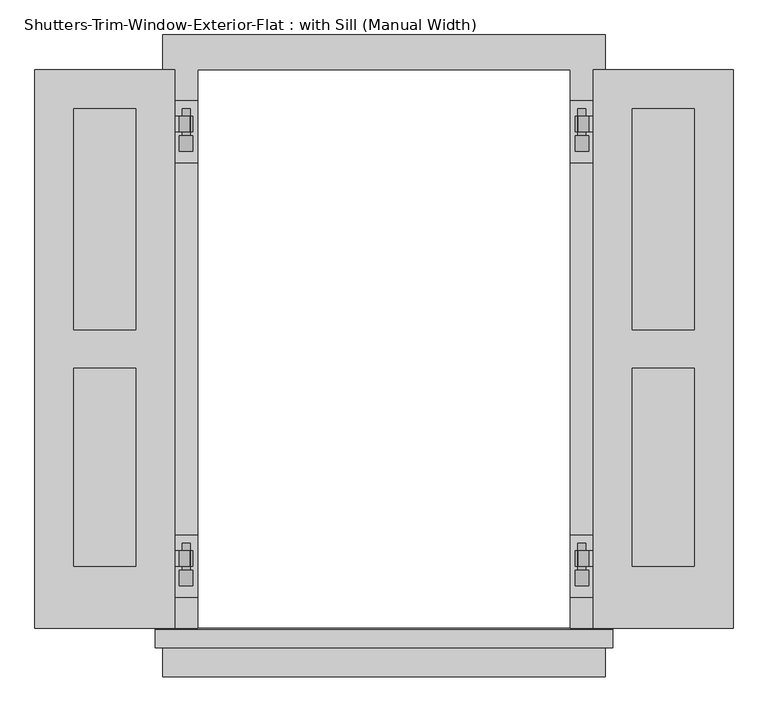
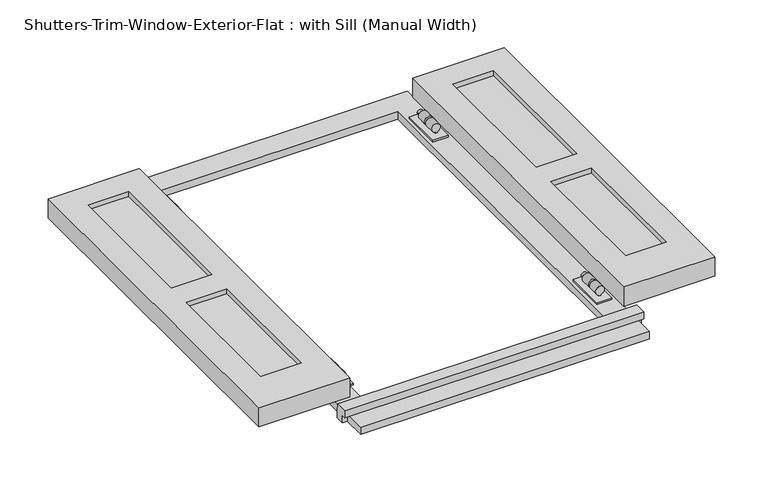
"""IFC4 building model written with IfcOpenShell, lengths in millimetres: proxy geometry, Shutters-Trim-Window-Exterior-Flat : with Sill (Manual Width)."""

from ifc_helpers import new_model, si_unit, frame, origin, origin_with_axes, place, context, project, spatial, polyline, circle_curve, outline, extrude, source, transform, mapped, element, save
from ifc_brep_helpers import plane_surface, cylinder_surface, revolved_surface, advanced_brep


def shutters_trim_window_exterior_flat_with_sill_manual_width_7cc3b3d1(model_context):
    return source(origin(), model_context, "Body", "SolidModel", [
        extrude(outline(polyline([(-571.5, 0.0), (-342.9, 0.0), (-342.9, -914.4), (-571.5, -914.4), (-571.5, 0.0)]), holes=[polyline([(-508.0, -63.5), (-508.0, -425.45), (-406.4, -425.45), (-406.4, -63.5), (-508.0, -63.5)]), polyline([(-406.4, -488.95), (-508.0, -488.95), (-508.0, -812.8), (-406.4, -812.8), (-406.4, -488.95)])]), frame((0.0, 0.0, 44.45), z_axis=(0.0, 0.0, 1.0), x_axis=(1.0, 0.0, 0.0)), (0.0, 0.0, 1.0), 50.8),
        extrude(outline(polyline([(-508.0, -63.5), (-406.4, -63.5), (-406.4, -425.45), (-508.0, -425.45), (-508.0, -63.5)])), frame((0.0, 0.0, 57.15), z_axis=(0.0, 0.0, 1.0), x_axis=(1.0, 0.0, 0.0)), (0.0, 0.0, 1.0), 25.4),
        extrude(outline(polyline([(-406.4, -488.95), (-406.4, -812.8), (-508.0, -812.8), (-508.0, -488.95), (-406.4, -488.95)])), frame((0.0, 0.0, 57.15), z_axis=(0.0, 0.0, 1.0), x_axis=(1.0, 0.0, 0.0)), (0.0, 0.0, 1.0), 25.4),
        extrude(outline(polyline([(571.5, 0.0), (571.5, -914.4), (342.9, -914.4), (342.9, 0.0), (571.5, 0.0)]), holes=[polyline([(508.0, -63.5), (406.4, -63.5), (406.4, -425.45), (508.0, -425.45), (508.0, -63.5)]), polyline([(406.4, -488.95), (406.4, -812.8), (508.0, -812.8), (508.0, -488.95), (406.4, -488.95)])]), frame((0.0, 0.0, 44.45), z_axis=(0.0, 0.0, 1.0), x_axis=(1.0, 0.0, 0.0)), (0.0, 0.0, 1.0), 50.8),
        extrude(outline(polyline([(508.0, -63.5), (508.0, -425.45), (406.4, -425.45), (406.4, -63.5), (508.0, -63.5)])), frame((0.0, 0.0, 57.15), z_axis=(0.0, 0.0, 1.0), x_axis=(1.0, 0.0, 0.0)), (0.0, 0.0, 1.0), 25.4),
        extrude(outline(polyline([(406.4, -488.95), (508.0, -488.95), (508.0, -812.8), (406.4, -812.8), (406.4, -488.95)])), frame((0.0, 0.0, 57.15), z_axis=(0.0, 0.0, 1.0), x_axis=(1.0, 0.0, 0.0)), (0.0, 0.0, 1.0), 25.4),
        extrude(outline(polyline([(-342.9, -762.0), (-304.8, -762.0), (-304.8, -863.6), (-342.9, -863.6), (-342.9, -762.0)])), frame((0.0, 0.0, 31.75), z_axis=(0.0, 0.0, 1.0), x_axis=(1.0, 0.0, 0.0)), (0.0, 0.0, 1.0), 4.7625),
        advanced_brep(
        [(-388.9375, -774.7, 44.45), (-363.474, -774.7, 44.45), (-363.474, -774.7, 39.6875), (-388.9375, -774.7, 39.6875), (-388.9375, -825.5, 39.6875), (-363.474, -825.5, 39.6875), (-363.474, -825.5, 44.45), (-388.9375, -825.5, 44.45), (-363.474, -787.4, 39.6875), (-323.85, -787.4, 39.6875), (-323.85, -812.8, 39.6875), (-363.474, -812.8, 39.6875), (-363.474, -812.8, 44.45), (-323.85, -812.8, 44.45), (-323.85, -787.4, 44.45), (-363.474, -787.4, 44.45), (-330.2, -812.8, 50.8), (-330.2, -787.4, 50.8), (-330.2, -812.8, 46.0375), (-330.2, -787.4, 46.0375), (-334.9625, -812.8, 46.0375), (-334.9625, -787.4, 46.0375), (-334.9625, -812.8, 50.8), (-334.9625, -787.4, 50.8)],
        [
            (0, 1),
            (1, 2),
            (2, 3),
            (3, 0),
            (4, 5),
            (5, 6),
            (6, 7),
            (7, 4),
            (2, 8),
            (8, 9),
            (9, 10),
            (10, 11),
            (11, 5),
            (4, 3),
            (7, 0),
            (6, 12),
            (12, 13),
            (13, 14),
            (14, 15),
            (15, 1),
            (16, 17),
            (17, 14, circle_curve(frame((-323.85, -787.4, 50.8), z_axis=(0.0, 1.0, 0.0), x_axis=(1.0, 0.0, 0.0)), 6.35)),
            (13, 16, circle_curve(frame((-323.85, -812.8, 50.8), z_axis=(0.0, -1.0, 0.0), x_axis=(1.0, 0.0, 0.0)), 6.35)),
            (18, 19),
            (19, 17),
            (16, 18),
            (20, 21),
            (21, 19),
            (18, 20),
            (22, 23),
            (23, 21),
            (20, 22),
            (9, 23, circle_curve(frame((-323.85, -787.4, 50.8), z_axis=(0.0, -1.0, 0.0), x_axis=(1.0, 0.0, 0.0)), 11.1125)),
            (22, 10, circle_curve(frame((-323.85, -812.8, 50.8), z_axis=(0.0, 1.0, 0.0), x_axis=(1.0, 0.0, 0.0)), 11.1125)),
            (12, 11),
            (8, 15),
        ],
        [
            plane_surface(frame((-323.85, -774.7, 50.8), z_axis=(0.0, 1.0, 0.0), x_axis=(0.0, 0.0, 1.0))),
            plane_surface(frame((-323.85, -825.5, 50.8), z_axis=(0.0, -1.0, 0.0), x_axis=(0.0, 0.0, 1.0))),
            plane_surface(frame((-388.9375, -774.7, 39.6875), z_axis=(0.0, 0.0, -1.0), x_axis=(0.0, -1.0, 0.0))),
            plane_surface(frame((-388.9375, -774.7, 44.45), z_axis=(-1.0, 0.0, 0.0), x_axis=(0.0, -1.0, 0.0))),
            plane_surface(frame((-323.85, -774.7, 44.45), z_axis=(0.0, 0.0, 1.0), x_axis=(0.0, -1.0, 0.0))),
            revolved_surface(polyline([(-317.5, -812.8, 50.8), (-317.5, -787.4, 50.8)]), (-323.85, -774.7, 50.8), (0.0, -1.0, 0.0)),
            plane_surface(frame((-330.2, -774.7, 46.0375), z_axis=(1.0, 0.0, 0.0), x_axis=(0.0, -1.0, 0.0))),
            plane_surface(frame((-334.9625, -774.7, 46.0375), z_axis=(0.0, 0.0, -1.0), x_axis=(0.0, -1.0, 0.0))),
            plane_surface(frame((-334.9625, -774.7, 50.8), z_axis=(-1.0, 0.0, 0.0), x_axis=(0.0, -1.0, 0.0))),
            cylinder_surface(frame((-323.85, -774.7, 50.8), z_axis=(0.0, 1.0, 0.0), x_axis=(1.0, 0.0, 0.0)), 11.1125),
            plane_surface(frame((-323.85, -812.8, 50.8), z_axis=(0.0, -1.0, 0.0), x_axis=(0.0, 0.0, 1.0))),
            plane_surface(frame((-363.474, -812.8, 44.45), z_axis=(1.0, 0.0, 0.0), x_axis=(0.0, -1.0, 0.0))),
            plane_surface(frame((-323.85, -787.4, 50.8), z_axis=(0.0, 1.0, 0.0), x_axis=(0.0, 0.0, 1.0))),
            plane_surface(frame((-363.474, -774.7, 44.45), z_axis=(1.0, 0.0, 0.0), x_axis=(0.0, -1.0, 0.0))),
        ],
        [
            (0, [[1, 2, 3, 4]]),
            (1, [[5, 6, 7, 8]]),
            (2, [[-3, 9, 10, 11, 12, 13, -5, 14]]),
            (3, [[-14, -8, 15, -4]]),
            (4, [[-7, 16, 17, 18, 19, 20, -1, -15]]),
            (5, [[21, 22, -18, 23]]),
            (6, [[24, 25, -21, 26]]),
            (7, [[27, 28, -24, 29]]),
            (8, [[30, 31, -27, 32]]),
            (9, [[-11, 33, -30, 34]]),
            (10, [[-12, -34, -32, -29, -26, -23, -17, 35]]),
            (11, [[-16, -6, -13, -35]]),
            (12, [[-19, -22, -25, -28, -31, -33, -10, 36]]),
            (13, [[-9, -2, -20, -36]]),
        ],
    ),
        advanced_brep(
        [(-326.23125, -819.15, 36.5125), (-326.23125, -819.15, 39.945632), (-321.46875, -819.15, 39.945632), (-321.46875, -819.15, 36.5125), (-317.5, -819.15, 50.8), (-330.2, -819.15, 50.8), (-326.23125, -844.55, 36.5125), (-321.46875, -844.55, 36.5125), (-321.46875, -844.55, 39.945632), (-326.23125, -844.55, 39.945632), (-330.2, -774.7, 50.8), (-317.5, -774.7, 50.8)],
        [
            (0, 1),
            (1, 2, circle_curve(frame((-323.85, -819.15, 50.8), z_axis=(0.0, 1.0, 0.0), x_axis=(1.0, 0.0, 0.0)), 11.1125)),
            (2, 3),
            (3, 0),
            (4, 5, circle_curve(frame((-323.85, -819.15, 50.8), z_axis=(0.0, -1.0, 0.0), x_axis=(1.0, 0.0, 0.0)), 6.35)),
            (5, 4, circle_curve(frame((-323.85, -819.15, 50.8), z_axis=(0.0, -1.0, 0.0), x_axis=(1.0, 0.0, 0.0)), 6.35)),
            (6, 7),
            (7, 8),
            (8, 9, circle_curve(frame((-323.85, -844.55, 50.8), z_axis=(0.0, -1.0, 0.0), x_axis=(1.0, 0.0, 0.0)), 11.1125)),
            (9, 6),
            (0, 6),
            (9, 1),
            (3, 7),
            (2, 8),
            (10, 11, circle_curve(frame((-323.85, -774.7, 50.8), z_axis=(0.0, 1.0, 0.0), x_axis=(1.0, 0.0, 0.0)), 6.35)),
            (11, 10, circle_curve(frame((-323.85, -774.7, 50.8), z_axis=(0.0, 1.0, 0.0), x_axis=(1.0, 0.0, 0.0)), 6.35)),
            (11, 4),
            (5, 10),
        ],
        [
            plane_surface(frame((-321.46875, -819.15, 36.5125), z_axis=(0.0, 1.0, 0.0), x_axis=(1.0, 0.0, 6.2395484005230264e-12))),
            plane_surface(frame((-321.46875, -844.55, 36.5125), z_axis=(0.0, -1.0, 0.0), x_axis=(-1.0, 0.0, -6.2395484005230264e-12))),
            plane_surface(frame((-326.23125, -819.15, 39.945632), z_axis=(-1.0, 0.0, 0.0), x_axis=(0.0, -1.0, 0.0))),
            plane_surface(frame((-326.23125, -819.15, 36.5125), z_axis=(6.2395484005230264e-12, 0.0, -1.0), x_axis=(0.0, -1.0, 0.0))),
            plane_surface(frame((-321.46875, -819.15, 36.5125), z_axis=(1.0, 0.0, 0.0), x_axis=(0.0, -1.0, 0.0))),
            cylinder_surface(frame((-323.85, -844.55, 50.8), z_axis=(0.0, 1.0, 0.0), x_axis=(1.0, 0.0, 0.0)), 11.1125),
            plane_surface(frame((-317.5, -774.7, 50.8), z_axis=(0.0, 1.0, 0.0), x_axis=(0.0, 0.0, 1.0))),
            cylinder_surface(frame((-323.85, -844.55, 50.8), z_axis=(0.0, 1.0, 0.0), x_axis=(1.0, 0.0, 0.0)), 6.35),
        ],
        [
            (0, [[1, 2, 3, 4], [5, 6]]),
            (1, [[7, 8, 9, 10]]),
            (2, [[11, -10, 12, -1]]),
            (3, [[13, -7, -11, -4]]),
            (4, [[14, -8, -13, -3]]),
            (5, [[-12, -9, -14, -2]]),
            (6, [[15, 16]]),
            (7, [[17, -6, 18, -16]]),
            (7, [[-18, -5, -17, -15]]),
        ],
    ),
        extrude(outline(polyline([(342.9, -762.0), (342.9, -863.6), (304.8, -863.6), (304.8, -762.0), (342.9, -762.0)])), frame((0.0, 0.0, 31.75), z_axis=(0.0, 0.0, 1.0), x_axis=(1.0, 0.0, 0.0)), (0.0, 0.0, 1.0), 4.7625),
        advanced_brep(
        [(388.9375, -774.7, 44.45), (388.9375, -774.7, 39.6875), (363.474, -774.7, 39.6875), (363.474, -774.7, 44.45), (388.9375, -825.5, 39.6875), (388.9375, -825.5, 44.45), (363.474, -825.5, 44.45), (363.474, -825.5, 39.6875), (363.474, -812.8, 39.6875), (323.85, -812.8, 39.6875), (323.85, -787.4, 39.6875), (363.474, -787.4, 39.6875), (363.474, -787.4, 44.45), (323.85, -787.4, 44.45), (323.85, -812.8, 44.45), (363.474, -812.8, 44.45), (330.2, -812.8, 50.8), (330.2, -787.4, 50.8), (330.2, -812.8, 46.0375), (330.2, -787.4, 46.0375), (334.9625, -812.8, 46.0375), (334.9625, -787.4, 46.0375), (334.9625, -812.8, 50.8), (334.9625, -787.4, 50.8)],
        [
            (0, 1),
            (1, 2),
            (2, 3),
            (3, 0),
            (4, 5),
            (5, 6),
            (6, 7),
            (7, 4),
            (1, 4),
            (7, 8),
            (8, 9),
            (9, 10),
            (10, 11),
            (11, 2),
            (0, 5),
            (3, 12),
            (12, 13),
            (13, 14),
            (14, 15),
            (15, 6),
            (16, 14, circle_curve(frame((323.85, -812.8, 50.8), z_axis=(0.0, -1.0, 0.0), x_axis=(-1.0, 0.0, 0.0)), 6.35)),
            (13, 17, circle_curve(frame((323.85, -787.4, 50.8), z_axis=(0.0, 1.0, 0.0), x_axis=(-1.0, 0.0, 0.0)), 6.35)),
            (17, 16),
            (18, 16),
            (17, 19),
            (19, 18),
            (20, 18),
            (19, 21),
            (21, 20),
            (22, 20),
            (21, 23),
            (23, 22),
            (9, 22, circle_curve(frame((323.85, -812.8, 50.8), z_axis=(0.0, 1.0, 0.0), x_axis=(-1.0, 0.0, 0.0)), 11.1125)),
            (23, 10, circle_curve(frame((323.85, -787.4, 50.8), z_axis=(0.0, -1.0, 0.0), x_axis=(-1.0, 0.0, 0.0)), 11.1125)),
            (8, 15),
            (12, 11),
        ],
        [
            plane_surface(frame((323.85, -774.7, 50.8), z_axis=(0.0, 1.0, 0.0), x_axis=(0.0, 0.0, 1.0))),
            plane_surface(frame((323.85, -825.5, 50.8), z_axis=(0.0, -1.0, 0.0), x_axis=(0.0, 0.0, 1.0))),
            plane_surface(frame((388.9375, -774.7, 39.6875), z_axis=(0.0, 0.0, -1.0), x_axis=(0.0, -1.0, 0.0))),
            plane_surface(frame((388.9375, -774.7, 44.45), z_axis=(1.0, 0.0, 0.0), x_axis=(0.0, -1.0, 0.0))),
            plane_surface(frame((323.85, -774.7, 44.45), z_axis=(0.0, 0.0, 1.0), x_axis=(0.0, -1.0, 0.0))),
            revolved_surface(polyline([(317.5, -812.8, 50.8), (317.5, -787.4, 50.8)]), (323.85, -774.7, 50.8), (0.0, -1.0, 0.0)),
            plane_surface(frame((330.2, -774.7, 46.0375), z_axis=(-1.0, 0.0, 0.0), x_axis=(0.0, -1.0, 0.0))),
            plane_surface(frame((334.9625, -774.7, 46.0375), z_axis=(0.0, 0.0, -1.0), x_axis=(0.0, -1.0, 0.0))),
            plane_surface(frame((334.9625, -774.7, 50.8), z_axis=(1.0, 0.0, 0.0), x_axis=(0.0, -1.0, 0.0))),
            cylinder_surface(frame((323.85, -774.7, 50.8), z_axis=(0.0, 1.0, 0.0), x_axis=(-1.0, 0.0, 0.0)), 11.1125),
            plane_surface(frame((323.85, -812.8, 50.8), z_axis=(0.0, -1.0, 0.0), x_axis=(0.0, 0.0, 1.0))),
            plane_surface(frame((363.474, -812.8, 44.45), z_axis=(-1.0, 0.0, 0.0), x_axis=(0.0, -1.0, 0.0))),
            plane_surface(frame((323.85, -787.4, 50.8), z_axis=(0.0, 1.0, 0.0), x_axis=(0.0, 0.0, 1.0))),
            plane_surface(frame((363.474, -774.7, 44.45), z_axis=(-1.0, 0.0, 0.0), x_axis=(0.0, -1.0, 0.0))),
        ],
        [
            (0, [[1, 2, 3, 4]]),
            (1, [[5, 6, 7, 8]]),
            (2, [[9, -8, 10, 11, 12, 13, 14, -2]]),
            (3, [[-1, 15, -5, -9]]),
            (4, [[-15, -4, 16, 17, 18, 19, 20, -6]]),
            (5, [[21, -18, 22, 23]]),
            (6, [[24, -23, 25, 26]]),
            (7, [[27, -26, 28, 29]]),
            (8, [[30, -29, 31, 32]]),
            (9, [[33, -32, 34, -12]]),
            (10, [[35, -19, -21, -24, -27, -30, -33, -11]]),
            (11, [[-35, -10, -7, -20]]),
            (12, [[36, -13, -34, -31, -28, -25, -22, -17]]),
            (13, [[-36, -16, -3, -14]]),
        ],
    ),
        advanced_brep(
        [(326.23125, -819.15, 36.5125), (321.46875, -819.15, 36.5125), (321.46875, -819.15, 39.945632), (326.23125, -819.15, 39.945632), (317.5, -819.15, 50.8), (330.2, -819.15, 50.8), (326.23125, -844.55, 36.5125), (326.23125, -844.55, 39.945632), (321.46875, -844.55, 39.945632), (321.46875, -844.55, 36.5125), (330.2, -774.7, 50.8), (317.5, -774.7, 50.8)],
        [
            (0, 1),
            (1, 2),
            (2, 3, circle_curve(frame((323.85, -819.15, 50.8), z_axis=(0.0, 1.0, 0.0), x_axis=(-1.0, 0.0, 0.0)), 11.1125)),
            (3, 0),
            (4, 5, circle_curve(frame((323.85, -819.15, 50.8), z_axis=(0.0, -1.0, 0.0), x_axis=(-1.0, 0.0, 0.0)), 6.35)),
            (5, 4, circle_curve(frame((323.85, -819.15, 50.8), z_axis=(0.0, -1.0, 0.0), x_axis=(-1.0, 0.0, 0.0)), 6.35)),
            (6, 7),
            (7, 8, circle_curve(frame((323.85, -844.55, 50.8), z_axis=(0.0, -1.0, 0.0), x_axis=(-1.0, 0.0, 0.0)), 11.1125)),
            (8, 9),
            (9, 6),
            (3, 7),
            (6, 0),
            (9, 1),
            (8, 2),
            (10, 11, circle_curve(frame((323.85, -774.7, 50.8), z_axis=(0.0, 1.0, 0.0), x_axis=(-1.0, 0.0, 0.0)), 6.35)),
            (11, 10, circle_curve(frame((323.85, -774.7, 50.8), z_axis=(0.0, 1.0, 0.0), x_axis=(-1.0, 0.0, 0.0)), 6.35)),
            (10, 5),
            (4, 11),
        ],
        [
            plane_surface(frame((321.46875, -819.15, 36.5125), z_axis=(0.0, 1.0, 0.0), x_axis=(-1.0, 0.0, 6.24601973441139e-12))),
            plane_surface(frame((321.46875, -844.55, 36.5125), z_axis=(0.0, -1.0, 0.0), x_axis=(1.0, 0.0, -6.24601973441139e-12))),
            plane_surface(frame((326.23125, -819.15, 39.945632), z_axis=(1.0, 0.0, 0.0), x_axis=(0.0, -1.0, 0.0))),
            plane_surface(frame((326.23125, -819.15, 36.5125), z_axis=(-6.24601973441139e-12, 0.0, -1.0), x_axis=(0.0, -1.0, 0.0))),
            plane_surface(frame((321.46875, -819.15, 36.5125), z_axis=(-1.0, 0.0, 0.0), x_axis=(0.0, -1.0, 0.0))),
            cylinder_surface(frame((323.85, -844.55, 50.8), z_axis=(0.0, 1.0, 0.0), x_axis=(-1.0, 0.0, 0.0)), 11.1125),
            plane_surface(frame((317.5, -774.7, 50.8), z_axis=(0.0, 1.0, 0.0), x_axis=(0.0, 0.0, 1.0))),
            cylinder_surface(frame((323.85, -844.55, 50.8), z_axis=(0.0, 1.0, 0.0), x_axis=(-1.0, 0.0, 0.0)), 6.35),
        ],
        [
            (0, [[1, 2, 3, 4], [5, 6]]),
            (1, [[7, 8, 9, 10]]),
            (2, [[-4, 11, -7, 12]]),
            (3, [[-1, -12, -10, 13]]),
            (4, [[-2, -13, -9, 14]]),
            (5, [[-3, -14, -8, -11]]),
            (6, [[15, 16]]),
            (7, [[-15, 17, -5, 18]]),
            (7, [[-16, -18, -6, -17]]),
        ],
    ),
        extrude(outline(polyline([(342.9, -50.8), (342.9, -152.4), (304.8, -152.4), (304.8, -50.8), (342.9, -50.8)])), frame((0.0, 0.0, 31.75), z_axis=(0.0, 0.0, 1.0), x_axis=(1.0, 0.0, 0.0)), (0.0, 0.0, 1.0), 4.7625),
        advanced_brep(
        [(388.9375, -63.5, 44.45), (388.9375, -63.5, 39.6875), (363.474, -63.5, 39.6875), (363.474, -63.5, 44.45), (388.9375, -114.3, 39.6875), (388.9375, -114.3, 44.45), (363.474, -114.3, 44.45), (363.474, -114.3, 39.6875), (363.474, -101.6, 39.6875), (323.85, -101.6, 39.6875), (323.85, -76.2, 39.6875), (363.474, -76.2, 39.6875), (363.474, -76.2, 44.45), (323.85, -76.2, 44.45), (323.85, -101.6, 44.45), (363.474, -101.6, 44.45), (330.2, -101.6, 50.8), (330.2, -76.2, 50.8), (330.2, -101.6, 46.0375), (330.2, -76.2, 46.0375), (334.9625, -101.6, 46.0375), (334.9625, -76.2, 46.0375), (334.9625, -101.6, 50.8), (334.9625, -76.2, 50.8)],
        [
            (0, 1),
            (1, 2),
            (2, 3),
            (3, 0),
            (4, 5),
            (5, 6),
            (6, 7),
            (7, 4),
            (1, 4),
            (7, 8),
            (8, 9),
            (9, 10),
            (10, 11),
            (11, 2),
            (0, 5),
            (3, 12),
            (12, 13),
            (13, 14),
            (14, 15),
            (15, 6),
            (16, 14, circle_curve(frame((323.85, -101.6, 50.8), z_axis=(0.0, -1.0, 0.0), x_axis=(-1.0, 0.0, 0.0)), 6.35)),
            (13, 17, circle_curve(frame((323.85, -76.2, 50.8), z_axis=(0.0, 1.0, 0.0), x_axis=(-1.0, 0.0, 0.0)), 6.35)),
            (17, 16),
            (18, 16),
            (17, 19),
            (19, 18),
            (20, 18),
            (19, 21),
            (21, 20),
            (22, 20),
            (21, 23),
            (23, 22),
            (9, 22, circle_curve(frame((323.85, -101.6, 50.8), z_axis=(0.0, 1.0, 0.0), x_axis=(-1.0, 0.0, 0.0)), 11.1125)),
            (23, 10, circle_curve(frame((323.85, -76.2, 50.8), z_axis=(0.0, -1.0, 0.0), x_axis=(-1.0, 0.0, 0.0)), 11.1125)),
            (8, 15),
            (12, 11),
        ],
        [
            plane_surface(frame((323.85, -63.5, 50.8), z_axis=(0.0, 1.0, 0.0), x_axis=(0.0, 0.0, 1.0))),
            plane_surface(frame((323.85, -114.3, 50.8), z_axis=(0.0, -1.0, 0.0), x_axis=(0.0, 0.0, 1.0))),
            plane_surface(frame((388.9375, -63.5, 39.6875), z_axis=(0.0, 0.0, -1.0), x_axis=(0.0, -1.0, 0.0))),
            plane_surface(frame((388.9375, -63.5, 44.45), z_axis=(1.0, 0.0, 0.0), x_axis=(0.0, -1.0, 0.0))),
            plane_surface(frame((323.85, -63.5, 44.45), z_axis=(0.0, 0.0, 1.0), x_axis=(0.0, -1.0, 0.0))),
            revolved_surface(polyline([(317.5, -101.6, 50.8), (317.5, -76.2, 50.8)]), (323.85, -63.5, 50.8), (0.0, -1.0, 0.0)),
            plane_surface(frame((330.2, -63.5, 46.0375), z_axis=(-1.0, 0.0, 0.0), x_axis=(0.0, -1.0, 0.0))),
            plane_surface(frame((334.9625, -63.5, 46.0375), z_axis=(0.0, 0.0, -1.0), x_axis=(0.0, -1.0, 0.0))),
            plane_surface(frame((334.9625, -63.5, 50.8), z_axis=(1.0, 0.0, 0.0), x_axis=(0.0, -1.0, 0.0))),
            cylinder_surface(frame((323.85, -63.5, 50.8), z_axis=(0.0, 1.0, 0.0), x_axis=(-1.0, 0.0, 0.0)), 11.1125),
            plane_surface(frame((323.85, -101.6, 50.8), z_axis=(0.0, -1.0, 0.0), x_axis=(0.0, 0.0, 1.0))),
            plane_surface(frame((363.474, -101.6, 44.45), z_axis=(-1.0, 0.0, 0.0), x_axis=(0.0, -1.0, 0.0))),
            plane_surface(frame((323.85, -76.2, 50.8), z_axis=(0.0, 1.0, 0.0), x_axis=(0.0, 0.0, 1.0))),
            plane_surface(frame((363.474, -63.5, 44.45), z_axis=(-1.0, 0.0, 0.0), x_axis=(0.0, -1.0, 0.0))),
        ],
        [
            (0, [[1, 2, 3, 4]]),
            (1, [[5, 6, 7, 8]]),
            (2, [[9, -8, 10, 11, 12, 13, 14, -2]]),
            (3, [[-1, 15, -5, -9]]),
            (4, [[-15, -4, 16, 17, 18, 19, 20, -6]]),
            (5, [[21, -18, 22, 23]]),
            (6, [[24, -23, 25, 26]]),
            (7, [[27, -26, 28, 29]]),
            (8, [[30, -29, 31, 32]]),
            (9, [[33, -32, 34, -12]]),
            (10, [[35, -19, -21, -24, -27, -30, -33, -11]]),
            (11, [[-35, -10, -7, -20]]),
            (12, [[36, -13, -34, -31, -28, -25, -22, -17]]),
            (13, [[-36, -16, -3, -14]]),
        ],
    ),
        advanced_brep(
        [(326.23125, -107.95, 36.5125), (321.46875, -107.95, 36.5125), (321.46875, -107.95, 39.945632), (326.23125, -107.95, 39.945632), (317.5, -107.95, 50.8), (330.2, -107.95, 50.8), (326.23125, -133.35, 36.5125), (326.23125, -133.35, 39.945632), (321.46875, -133.35, 39.945632), (321.46875, -133.35, 36.5125), (330.2, -63.5, 50.8), (317.5, -63.5, 50.8)],
        [
            (0, 1),
            (1, 2),
            (2, 3, circle_curve(frame((323.85, -107.95, 50.8), z_axis=(0.0, 1.0, 0.0), x_axis=(-1.0, 0.0, 0.0)), 11.1125)),
            (3, 0),
            (4, 5, circle_curve(frame((323.85, -107.95, 50.8), z_axis=(0.0, -1.0, 0.0), x_axis=(-1.0, 0.0, 0.0)), 6.35)),
            (5, 4, circle_curve(frame((323.85, -107.95, 50.8), z_axis=(0.0, -1.0, 0.0), x_axis=(-1.0, 0.0, 0.0)), 6.35)),
            (6, 7),
            (7, 8, circle_curve(frame((323.85, -133.35, 50.8), z_axis=(0.0, -1.0, 0.0), x_axis=(-1.0, 0.0, 0.0)), 11.1125)),
            (8, 9),
            (9, 6),
            (3, 7),
            (6, 0),
            (9, 1),
            (8, 2),
            (10, 11, circle_curve(frame((323.85, -63.5, 50.8), z_axis=(0.0, 1.0, 0.0), x_axis=(-1.0, 0.0, 0.0)), 6.35)),
            (11, 10, circle_curve(frame((323.85, -63.5, 50.8), z_axis=(0.0, 1.0, 0.0), x_axis=(-1.0, 0.0, 0.0)), 6.35)),
            (10, 5),
            (4, 11),
        ],
        [
            plane_surface(frame((321.46875, -107.95, 36.5125), z_axis=(0.0, 1.0, 0.0), x_axis=(-1.0, 0.0, 6.24601973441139e-12))),
            plane_surface(frame((321.46875, -133.35, 36.5125), z_axis=(0.0, -1.0, 0.0), x_axis=(1.0, 0.0, -6.24601973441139e-12))),
            plane_surface(frame((326.23125, -107.95, 39.945632), z_axis=(1.0, 0.0, 0.0), x_axis=(0.0, -1.0, 0.0))),
            plane_surface(frame((326.23125, -107.95, 36.5125), z_axis=(-6.24601973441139e-12, 0.0, -1.0), x_axis=(0.0, -1.0, 0.0))),
            plane_surface(frame((321.46875, -107.95, 36.5125), z_axis=(-1.0, 0.0, 0.0), x_axis=(0.0, -1.0, 0.0))),
            cylinder_surface(frame((323.85, -133.35, 50.8), z_axis=(0.0, 1.0, 0.0), x_axis=(-1.0, 0.0, 0.0)), 11.1125),
            plane_surface(frame((317.5, -63.5, 50.8), z_axis=(0.0, 1.0, 0.0), x_axis=(0.0, 0.0, 1.0))),
            cylinder_surface(frame((323.85, -133.35, 50.8), z_axis=(0.0, 1.0, 0.0), x_axis=(-1.0, 0.0, 0.0)), 6.35),
        ],
        [
            (0, [[1, 2, 3, 4], [5, 6]]),
            (1, [[7, 8, 9, 10]]),
            (2, [[-4, 11, -7, 12]]),
            (3, [[-1, -12, -10, 13]]),
            (4, [[-2, -13, -9, 14]]),
            (5, [[-3, -14, -8, -11]]),
            (6, [[15, 16]]),
            (7, [[-15, 17, -5, 18]]),
            (7, [[-16, -18, -6, -17]]),
        ],
    ),
        extrude(outline(polyline([(-342.9, -50.8), (-304.8, -50.8), (-304.8, -152.4), (-342.9, -152.4), (-342.9, -50.8)])), frame((0.0, 0.0, 31.75), z_axis=(0.0, 0.0, 1.0), x_axis=(1.0, 0.0, 0.0)), (0.0, 0.0, 1.0), 4.7625),
        advanced_brep(
        [(-388.9375, -63.5, 44.45), (-363.474, -63.5, 44.45), (-363.474, -63.5, 39.6875), (-388.9375, -63.5, 39.6875), (-388.9375, -114.3, 39.6875), (-363.474, -114.3, 39.6875), (-363.474, -114.3, 44.45), (-388.9375, -114.3, 44.45), (-363.474, -76.2, 39.6875), (-323.85, -76.2, 39.6875), (-323.85, -101.6, 39.6875), (-363.474, -101.6, 39.6875), (-363.474, -101.6, 44.45), (-323.85, -101.6, 44.45), (-323.85, -76.2, 44.45), (-363.474, -76.2, 44.45), (-330.2, -101.6, 50.8), (-330.2, -76.2, 50.8), (-330.2, -101.6, 46.0375), (-330.2, -76.2, 46.0375), (-334.9625, -101.6, 46.0375), (-334.9625, -76.2, 46.0375), (-334.9625, -101.6, 50.8), (-334.9625, -76.2, 50.8)],
        [
            (0, 1),
            (1, 2),
            (2, 3),
            (3, 0),
            (4, 5),
            (5, 6),
            (6, 7),
            (7, 4),
            (2, 8),
            (8, 9),
            (9, 10),
            (10, 11),
            (11, 5),
            (4, 3),
            (7, 0),
            (6, 12),
            (12, 13),
            (13, 14),
            (14, 15),
            (15, 1),
            (16, 17),
            (17, 14, circle_curve(frame((-323.85, -76.2, 50.8), z_axis=(0.0, 1.0, 0.0), x_axis=(1.0, 0.0, 0.0)), 6.35)),
            (13, 16, circle_curve(frame((-323.85, -101.6, 50.8), z_axis=(0.0, -1.0, 0.0), x_axis=(1.0, 0.0, 0.0)), 6.35)),
            (18, 19),
            (19, 17),
            (16, 18),
            (20, 21),
            (21, 19),
            (18, 20),
            (22, 23),
            (23, 21),
            (20, 22),
            (9, 23, circle_curve(frame((-323.85, -76.2, 50.8), z_axis=(0.0, -1.0, 0.0), x_axis=(1.0, 0.0, 0.0)), 11.1125)),
            (22, 10, circle_curve(frame((-323.85, -101.6, 50.8), z_axis=(0.0, 1.0, 0.0), x_axis=(1.0, 0.0, 0.0)), 11.1125)),
            (12, 11),
            (8, 15),
        ],
        [
            plane_surface(frame((-323.85, -63.5, 50.8), z_axis=(0.0, 1.0, 0.0), x_axis=(0.0, 0.0, 1.0))),
            plane_surface(frame((-323.85, -114.3, 50.8), z_axis=(0.0, -1.0, 0.0), x_axis=(0.0, 0.0, 1.0))),
            plane_surface(frame((-388.9375, -63.5, 39.6875), z_axis=(0.0, 0.0, -1.0), x_axis=(0.0, -1.0, 0.0))),
            plane_surface(frame((-388.9375, -63.5, 44.45), z_axis=(-1.0, 0.0, 0.0), x_axis=(0.0, -1.0, 0.0))),
            plane_surface(frame((-323.85, -63.5, 44.45), z_axis=(0.0, 0.0, 1.0), x_axis=(0.0, -1.0, 0.0))),
            revolved_surface(polyline([(-317.5, -101.6, 50.8), (-317.5, -76.2, 50.8)]), (-323.85, -63.5, 50.8), (0.0, -1.0, 0.0)),
            plane_surface(frame((-330.2, -63.5, 46.0375), z_axis=(1.0, 0.0, 0.0), x_axis=(0.0, -1.0, 0.0))),
            plane_surface(frame((-334.9625, -63.5, 46.0375), z_axis=(0.0, 0.0, -1.0), x_axis=(0.0, -1.0, 0.0))),
            plane_surface(frame((-334.9625, -63.5, 50.8), z_axis=(-1.0, 0.0, 0.0), x_axis=(0.0, -1.0, 0.0))),
            cylinder_surface(frame((-323.85, -63.5, 50.8), z_axis=(0.0, 1.0, 0.0), x_axis=(1.0, 0.0, 0.0)), 11.1125),
            plane_surface(frame((-323.85, -101.6, 50.8), z_axis=(0.0, -1.0, 0.0), x_axis=(0.0, 0.0, 1.0))),
            plane_surface(frame((-363.474, -101.6, 44.45), z_axis=(1.0, 0.0, 0.0), x_axis=(0.0, -1.0, 0.0))),
            plane_surface(frame((-323.85, -76.2, 50.8), z_axis=(0.0, 1.0, 0.0), x_axis=(0.0, 0.0, 1.0))),
            plane_surface(frame((-363.474, -63.5, 44.45), z_axis=(1.0, 0.0, 0.0), x_axis=(0.0, -1.0, 0.0))),
        ],
        [
            (0, [[1, 2, 3, 4]]),
            (1, [[5, 6, 7, 8]]),
            (2, [[-3, 9, 10, 11, 12, 13, -5, 14]]),
            (3, [[-14, -8, 15, -4]]),
            (4, [[-7, 16, 17, 18, 19, 20, -1, -15]]),
            (5, [[21, 22, -18, 23]]),
            (6, [[24, 25, -21, 26]]),
            (7, [[27, 28, -24, 29]]),
            (8, [[30, 31, -27, 32]]),
            (9, [[-11, 33, -30, 34]]),
            (10, [[-12, -34, -32, -29, -26, -23, -17, 35]]),
            (11, [[-16, -6, -13, -35]]),
            (12, [[-19, -22, -25, -28, -31, -33, -10, 36]]),
            (13, [[-9, -2, -20, -36]]),
        ],
    ),
        advanced_brep(
        [(-326.23125, -107.95, 36.5125), (-326.23125, -107.95, 39.945632), (-321.46875, -107.95, 39.945632), (-321.46875, -107.95, 36.5125), (-317.5, -107.95, 50.8), (-330.2, -107.95, 50.8), (-326.23125, -133.35, 36.5125), (-321.46875, -133.35, 36.5125), (-321.46875, -133.35, 39.945632), (-326.23125, -133.35, 39.945632), (-330.2, -63.5, 50.8), (-317.5, -63.5, 50.8)],
        [
            (0, 1),
            (1, 2, circle_curve(frame((-323.85, -107.95, 50.8), z_axis=(0.0, 1.0, 0.0), x_axis=(1.0, 0.0, 0.0)), 11.1125)),
            (2, 3),
            (3, 0),
            (4, 5, circle_curve(frame((-323.85, -107.95, 50.8), z_axis=(0.0, -1.0, 0.0), x_axis=(1.0, 0.0, 0.0)), 6.35)),
            (5, 4, circle_curve(frame((-323.85, -107.95, 50.8), z_axis=(0.0, -1.0, 0.0), x_axis=(1.0, 0.0, 0.0)), 6.35)),
            (6, 7),
            (7, 8),
            (8, 9, circle_curve(frame((-323.85, -133.35, 50.8), z_axis=(0.0, -1.0, 0.0), x_axis=(1.0, 0.0, 0.0)), 11.1125)),
            (9, 6),
            (0, 6),
            (9, 1),
            (3, 7),
            (2, 8),
            (10, 11, circle_curve(frame((-323.85, -63.5, 50.8), z_axis=(0.0, 1.0, 0.0), x_axis=(1.0, 0.0, 0.0)), 6.35)),
            (11, 10, circle_curve(frame((-323.85, -63.5, 50.8), z_axis=(0.0, 1.0, 0.0), x_axis=(1.0, 0.0, 0.0)), 6.35)),
            (11, 4),
            (5, 10),
        ],
        [
            plane_surface(frame((-321.46875, -107.95, 36.5125), z_axis=(0.0, 1.0, 0.0), x_axis=(1.0, 0.0, 6.2395484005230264e-12))),
            plane_surface(frame((-321.46875, -133.35, 36.5125), z_axis=(0.0, -1.0, 0.0), x_axis=(-1.0, 0.0, -6.2395484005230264e-12))),
            plane_surface(frame((-326.23125, -107.95, 39.945632), z_axis=(-1.0, 0.0, 0.0), x_axis=(0.0, -1.0, 0.0))),
            plane_surface(frame((-326.23125, -107.95, 36.5125), z_axis=(6.2395484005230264e-12, 0.0, -1.0), x_axis=(0.0, -1.0, 0.0))),
            plane_surface(frame((-321.46875, -107.95, 36.5125), z_axis=(1.0, 0.0, 0.0), x_axis=(0.0, -1.0, 0.0))),
            cylinder_surface(frame((-323.85, -133.35, 50.8), z_axis=(0.0, 1.0, 0.0), x_axis=(1.0, 0.0, 0.0)), 11.1125),
            plane_surface(frame((-317.5, -63.5, 50.8), z_axis=(0.0, 1.0, 0.0), x_axis=(0.0, 0.0, 1.0))),
            cylinder_surface(frame((-323.85, -133.35, 50.8), z_axis=(0.0, 1.0, 0.0), x_axis=(1.0, 0.0, 0.0)), 6.35),
        ],
        [
            (0, [[1, 2, 3, 4], [5, 6]]),
            (1, [[7, 8, 9, 10]]),
            (2, [[11, -10, 12, -1]]),
            (3, [[13, -7, -11, -4]]),
            (4, [[14, -8, -13, -3]]),
            (5, [[-12, -9, -14, -2]]),
            (6, [[15, 16]]),
            (7, [[17, -6, 18, -16]]),
            (7, [[-18, -5, -17, -15]]),
        ],
    ),
        extrude(outline(polyline([(-361.95, 57.15), (361.95, 57.15), (361.95, -914.4), (304.8, -914.4), (304.8, 0.0), (-304.8, 0.0), (-304.8, -914.4), (-361.95, -914.4), (-361.95, 57.15)])), origin_with_axes(), (0.0, 0.0, 1.0), 19.05),
        extrude(outline(polyline([(-946.15, 38.1), (-916.8580645, 38.1), (-914.4, 19.05), (-914.4, 0.0), (-936.5823709, 0.0), (-936.5823709, 19.05), (-946.15, 19.05), (-946.15, 38.1)])), frame((-374.65, 0.0, 0.0), z_axis=(1.0, 0.0, 0.0), x_axis=(0.0, 1.0, 0.0)), (0.0, 0.0, 1.0), 749.3),
        extrude(outline(polyline([(361.95, -936.5823709), (361.95, -993.7323709), (-361.95, -993.7323709), (-361.95, -936.5823709), (361.95, -936.5823709)])), origin_with_axes(), (0.0, 0.0, 1.0), 19.05),
    ])


if __name__ == "__main__":
    model = new_model("IFC4")
    model_context = context("Model", 3, world=origin())
    ifc_project = project(units=[si_unit("LENGTHUNIT", "METRE", prefix="MILLI")], contexts=[model_context])
    site = spatial("IfcSite", under=ifc_project)
    building = spatial("IfcBuilding", under=site)
    placement = place(None, origin())
    shutters_trim_window_exterior_flat_with_sill_manual_width_shape = shutters_trim_window_exterior_flat_with_sill_manual_width_7cc3b3d1(model_context)
    element("IfcBuildingElementProxy", 1, Name="Shutters-Trim-Window-Exterior-Flat : with Sill (Manual Width)", ObjectType="Shutters-Trim-Window-Exterior-Flat : with Sill (Manual Width)", at=placement, inside=building, context=model_context, shape_type="MappedRepresentation", body=[
        mapped(shutters_trim_window_exterior_flat_with_sill_manual_width_shape, transform((0.0, 0.0, 0.0), x_axis=(1.0, 0.0, 0.0), y_axis=(0.0, 1.0, 0.0), z_axis=(0.0, 0.0, 1.0))),
    ])
    save(model, "model.ifc")
